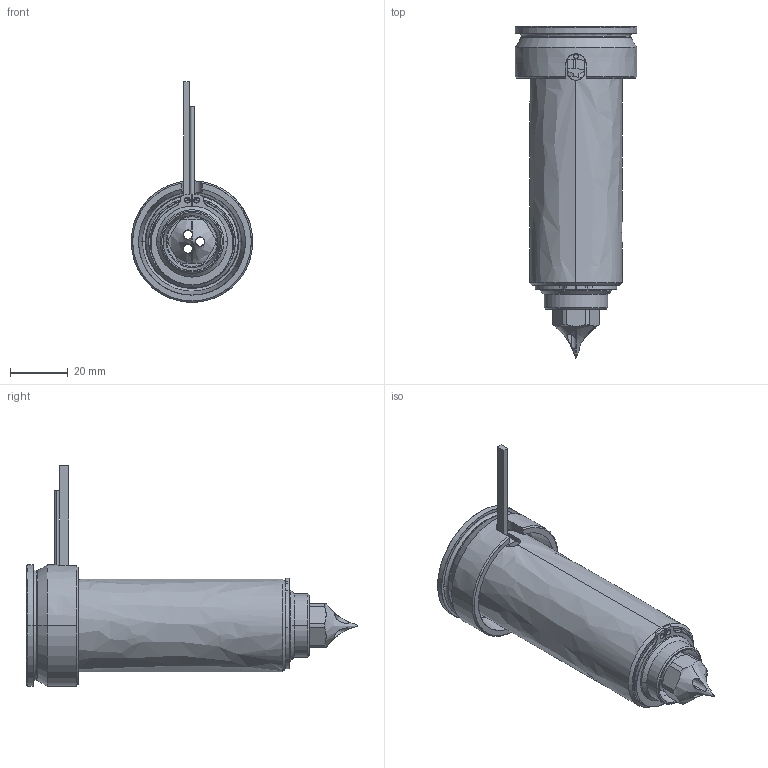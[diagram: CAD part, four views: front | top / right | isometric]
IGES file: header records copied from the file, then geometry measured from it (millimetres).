
Start section: SolidWorks IGES file using analytic representation for surfaces
Global section: file name: C:\Users\luca.EMPAD\Desktop\TEM\UGDL3613-M-A-1 [Øf=0.3 ØC=09].IGS; native system: SolidWorks 2012; preprocessor: SolidWorks 2012; author: luca; date: 120330.155602; units: millimetre
Bounding box: 42 x 114.8 x 76.3 mm (x, y, z)
Surface area: 36885 mm2 (no closed solid volume)
Topology: 0 solids, 0 shells, 126 faces, 2244 edges, 2244 vertices
Faces by surface type: revolution 79, bspline 47
